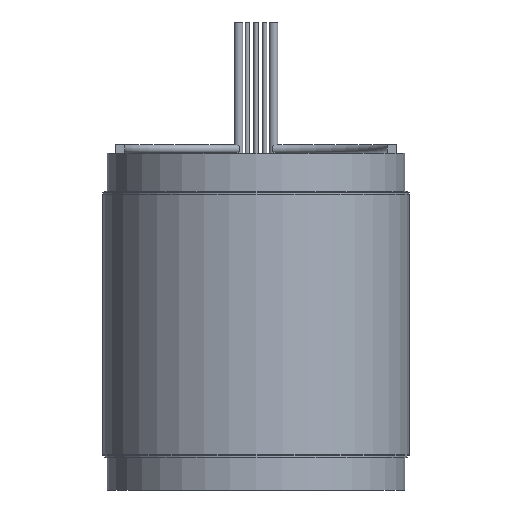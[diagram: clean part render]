
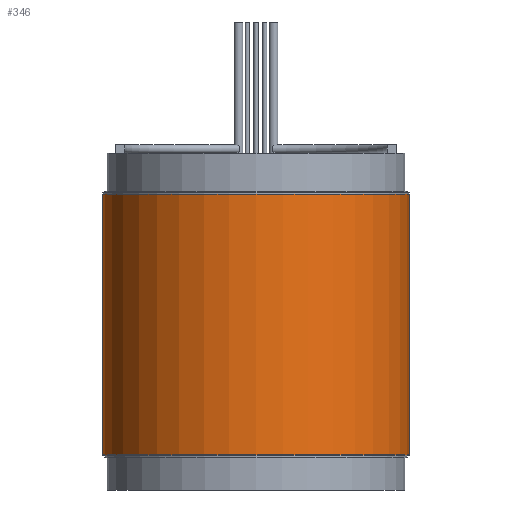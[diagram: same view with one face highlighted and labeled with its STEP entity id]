
A CAD part, front view. The second image highlights one B-rep face of the part: STEP entity #346.
In plain terms, the highlighted cylindrical face has radius 44.45 mm (diameter 88.9 mm), a full revolution.
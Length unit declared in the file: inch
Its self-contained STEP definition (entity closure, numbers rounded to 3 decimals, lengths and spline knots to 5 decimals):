
#87 = CYLINDRICAL_SURFACE ( 'NONE', #805, 1.75 ) ;
#90 = ORIENTED_EDGE ( 'NONE', *, *, #945, .T. ) ;
#180 = FACE_OUTER_BOUND ( 'NONE', #1700, .T. ) ;
#346 = ADVANCED_FACE ( 'NONE', ( #867, #180 ), #87, .T. ) ;
#404 = DIRECTION ( 'NONE',  ( 1., 0., 0. ) ) ;
#439 = AXIS2_PLACEMENT_3D ( 'NONE', #1672, #717, #849 ) ;
#503 = CARTESIAN_POINT ( 'NONE',  ( 1.75, 0., 1.486 ) ) ;
#689 = CARTESIAN_POINT ( 'NONE',  ( 0., 0., -1.486 ) ) ;
#708 = CIRCLE ( 'NONE', #439, 1.75 ) ;
#717 = DIRECTION ( 'NONE',  ( 0., 0., 1. ) ) ;
#733 = EDGE_LOOP ( 'NONE', ( #1158 ) ) ;
#805 = AXIS2_PLACEMENT_3D ( 'NONE', #1082, #1104, #404 ) ;
#849 = DIRECTION ( 'NONE',  ( 1., 0., 0. ) ) ;
#867 = FACE_OUTER_BOUND ( 'NONE', #733, .T. ) ;
#945 = EDGE_CURVE ( 'NONE', #1555, #1555, #1689, .T. ) ;
#1042 = CARTESIAN_POINT ( 'NONE',  ( 1.75, 0., -1.486 ) ) ;
#1075 = EDGE_CURVE ( 'NONE', #1594, #1594, #708, .T. ) ;
#1082 = CARTESIAN_POINT ( 'NONE',  ( 0., 0., -1.52 ) ) ;
#1104 = DIRECTION ( 'NONE',  ( 0., 0., 1. ) ) ;
#1124 = DIRECTION ( 'NONE',  ( 0., 0., 1. ) ) ;
#1158 = ORIENTED_EDGE ( 'NONE', *, *, #1075, .F. ) ;
#1384 = DIRECTION ( 'NONE',  ( 1., 0., 0. ) ) ;
#1555 = VERTEX_POINT ( 'NONE', #1042 ) ;
#1569 = AXIS2_PLACEMENT_3D ( 'NONE', #689, #1124, #1384 ) ;
#1594 = VERTEX_POINT ( 'NONE', #503 ) ;
#1672 = CARTESIAN_POINT ( 'NONE',  ( 0., 0., 1.486 ) ) ;
#1689 = CIRCLE ( 'NONE', #1569, 1.75 ) ;
#1700 = EDGE_LOOP ( 'NONE', ( #90 ) ) ;
